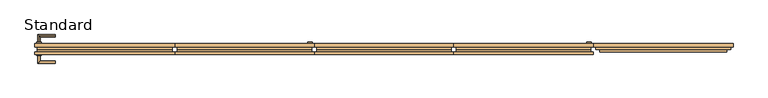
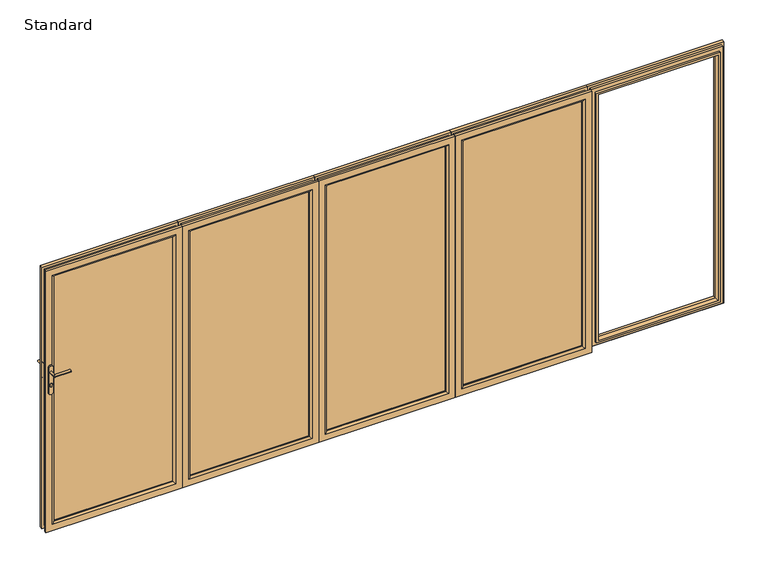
"""IFC4 building model written with IfcOpenShell, lengths in millimetres: door geometry, SMARTS_Visofold1000 : Standard."""

from ifc_helpers import new_model, si_unit, point, frame, frame_2d, origin, place, context, project, spatial, polyline, circle_curve, ellipse_curve, trimmed, segment, composite_curve, outline, extrude, faceted_brep, source, transform, mapped, element, save
from ifc_brep_helpers import plane_surface, cylinder_surface, advanced_brep


def standard_33c56ea0(model_context):
    return source(origin(), model_context, "Body", "SolidModel", [
        advanced_brep(
        [(-1943.3333333, 75.0, 1232.5996413), (-1943.3333333, 75.0, 1215.5996413), (-1943.3333333, 130.0, 1215.5996413), (-1943.3333333, 130.0, 1232.5996413), (-1828.3333333, 130.0, 1232.5996413), (-1828.3333333, 130.0, 1215.5996413)],
        [
            (0, 1, circle_curve(frame((-1943.3333333, 75.0, 1224.0996413), z_axis=(0.0, -1.0, 0.0), x_axis=(0.0, 0.0, -1.0)), 8.5)),
            (1, 0, circle_curve(frame((-1943.3333333, 75.0, 1224.0996413), z_axis=(0.0, -1.0, 0.0), x_axis=(0.0, 0.0, -1.0)), 8.5)),
            (1, 2),
            (2, 3, ellipse_curve(frame((-1943.3333333, 130.0, 1224.0996413), z_axis=(-0.7071067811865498, -0.7071067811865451, 0.0), x_axis=(0.707106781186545, -0.70710678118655, 0.0)), 12.0208153, 8.5)),
            (3, 0),
            (3, 2, ellipse_curve(frame((-1943.3333333, 130.0, 1224.0996413), z_axis=(-0.7071067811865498, -0.7071067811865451, 0.0), x_axis=(0.707106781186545, -0.70710678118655, 0.0)), 12.0208153, 8.5)),
            (4, 5, circle_curve(frame((-1828.3333333, 130.0, 1224.0996413), z_axis=(1.0, 0.0, 0.0), x_axis=(0.0, 0.0, -1.0)), 8.5)),
            (5, 4, circle_curve(frame((-1828.3333333, 130.0, 1224.0996413), z_axis=(1.0, 0.0, 0.0), x_axis=(0.0, 0.0, -1.0)), 8.5)),
            (2, 5),
            (4, 3),
        ],
        [
            plane_surface(frame((-1943.3333333, 75.0, 1224.0996413), z_axis=(0.0, -1.0, 0.0), x_axis=(0.0, 0.0, -1.0))),
            cylinder_surface(frame((-1943.3333333, 75.0, 1224.0996413), z_axis=(0.0, -1.0, 0.0), x_axis=(0.0, 0.0, -1.0)), 8.5),
            plane_surface(frame((-1828.3333333, 130.0, 1224.0996413), z_axis=(1.0, 0.0, 0.0), x_axis=(0.0, 0.0, -1.0))),
            cylinder_surface(frame((-1943.3333333, 130.0, 1224.0996413), z_axis=(-1.0, 0.0, 0.0), x_axis=(0.0, 0.0, -1.0)), 8.5),
        ],
        [
            (0, [[1, 2]]),
            (1, [[-2, 3, 4, 5]]),
            (1, [[-1, -5, 6, -3]]),
            (2, [[7, 8]]),
            (3, [[-4, 9, -7, 10]]),
            (3, [[-6, -10, -8, -9]]),
        ],
    ),
        extrude(outline(composite_curve([segment(trimmed(circle_curve(frame_2d((1258.0996413, -1943.3333333)), 16.0), [point((1258.0996413, -1927.3333333))], [point((1258.0996413, -1959.3333333))], False, "CARTESIAN"), True, "CONTINUOUS"), segment(polyline([(1258.0996413, -1959.3333333), (1070.0996413, -1959.3333333)]), True, "CONTINUOUS"), segment(trimmed(circle_curve(frame_2d((1070.0996413, -1943.3333333)), 16.0), [point((1070.0996413, -1959.3333333))], [point((1070.0996413, -1927.3333333))], False, "CARTESIAN"), True, "CONTINUOUS"), segment(polyline([(1070.0996413, -1927.3333333), (1258.0996413, -1927.3333333)]), True, "CONTINUOUS")], self_intersect=False)), frame((0.0, 75.0, 0.0), z_axis=(0.0, 1.0, 0.0), x_axis=(0.0, 0.0, 1.0)), (0.0, 0.0, 1.0), 10.0),
        advanced_brep(
        [(-1934.8333333, 0.0, 1224.0996413), (-1951.8333333, 0.0, 1224.0996413), (-1934.8333333, -46.5, 1224.0996413), (-1951.8333333, -63.5, 1224.0996413), (-1828.3333333, -46.5, 1224.0996413), (-1828.3333333, -63.5, 1224.0996413)],
        [
            (0, 1, circle_curve(frame((-1943.3333333, 0.0, 1224.0996413), z_axis=(0.0, 1.0, 0.0), x_axis=(-1.0, 0.0, 0.0)), 8.5)),
            (1, 0, circle_curve(frame((-1943.3333333, 0.0, 1224.0996413), z_axis=(0.0, 1.0, 0.0), x_axis=(-1.0, 0.0, 0.0)), 8.5)),
            (0, 2),
            (2, 3, ellipse_curve(frame((-1943.3333333, -55.0, 1224.0996413), z_axis=(-0.7071067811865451, 0.7071067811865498, 0.0), x_axis=(0.7071067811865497, 0.7071067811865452, 0.0)), 12.0208153, 8.5)),
            (3, 1),
            (3, 2, ellipse_curve(frame((-1943.3333333, -55.0, 1224.0996413), z_axis=(-0.7071067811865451, 0.7071067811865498, 0.0), x_axis=(0.7071067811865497, 0.7071067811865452, 0.0)), 12.0208153, 8.5)),
            (4, 5, circle_curve(frame((-1828.3333333, -55.0, 1224.0996413), z_axis=(1.0, 0.0, 0.0), x_axis=(0.0, -1.0, 0.0)), 8.5)),
            (5, 4, circle_curve(frame((-1828.3333333, -55.0, 1224.0996413), z_axis=(1.0, 0.0, 0.0), x_axis=(0.0, -1.0, 0.0)), 8.5)),
            (2, 4),
            (5, 3),
        ],
        [
            plane_surface(frame((-1943.3333333, 0.0, 1224.0996413), z_axis=(0.0, 1.0, 0.0), x_axis=(0.0, 0.0, -1.0))),
            cylinder_surface(frame((-1943.3333333, 0.0, 1224.0996413), z_axis=(0.0, 1.0, 0.0), x_axis=(-1.0, 0.0, 0.0)), 8.5),
            plane_surface(frame((-1828.3333333, -55.0, 1224.0996413), z_axis=(1.0, 0.0, 0.0), x_axis=(0.0, 0.0, -1.0))),
            cylinder_surface(frame((-1943.3333333, -55.0, 1224.0996413), z_axis=(-1.0, 0.0, 0.0), x_axis=(0.0, -1.0, 0.0)), 8.5),
        ],
        [
            (0, [[1, 2]]),
            (1, [[-1, 3, 4, 5]]),
            (1, [[-2, -5, 6, -3]]),
            (2, [[7, 8]]),
            (3, [[-4, 9, -8, 10]]),
            (3, [[-6, -10, -7, -9]]),
        ],
    ),
        extrude(outline(composite_curve([segment(trimmed(circle_curve(frame_2d((1258.0996413, -1943.3333333)), 16.0), [point((1258.0996413, -1927.3333333))], [point((1258.0996413, -1959.3333333))], False, "CARTESIAN"), True, "CONTINUOUS"), segment(polyline([(1258.0996413, -1959.3333333), (1070.0996413, -1959.3333333)]), True, "CONTINUOUS"), segment(trimmed(circle_curve(frame_2d((1070.0996413, -1943.3333333)), 16.0), [point((1070.0996413, -1959.3333333))], [point((1070.0996413, -1927.3333333))], False, "CARTESIAN"), True, "CONTINUOUS"), segment(polyline([(1070.0996413, -1927.3333333), (1258.0996413, -1927.3333333)]), True, "CONTINUOUS")], self_intersect=False)), frame((0.0, -10.0, 0.0), z_axis=(0.0, 1.0, 0.0), x_axis=(0.0, 0.0, 1.0)), (0.0, 0.0, 1.0), 10.0),
        extrude(outline(composite_curve([segment(trimmed(circle_curve(frame_2d((1132.0996413, -1943.2761428)), 8.5), [point((1125.1769586, -1938.3439563))], [point((1125.27562, -1948.3439563))], False, "CARTESIAN"), True, "CONTINUOUS"), segment(polyline([(1125.27562, -1948.3439563), (1117.5996413, -1948.3439563)]), True, "CONTINUOUS"), segment(trimmed(circle_curve(frame_2d((1117.5996413, -1943.3439563)), 5.0), [point((1117.5996413, -1948.3439563))], [point((1117.5996413, -1938.3439563))], False, "CARTESIAN"), True, "CONTINUOUS"), segment(polyline([(1117.5996413, -1938.3439563), (1125.1769586, -1938.3439563)]), True, "CONTINUOUS")], self_intersect=False)), frame((0.0, 85.0, 0.0), z_axis=(0.0, 1.0, 0.0), x_axis=(0.0, 0.0, 1.0)), (0.0, 0.0, 1.0), 2.0),
        extrude(outline(composite_curve([segment(trimmed(circle_curve(frame_2d((1132.0996413, -1943.2761428)), 8.5), [point((1125.1769586, -1938.3439563))], [point((1125.27562, -1948.3439563))], False, "CARTESIAN"), True, "CONTINUOUS"), segment(polyline([(1125.27562, -1948.3439563), (1117.5996413, -1948.3439563)]), True, "CONTINUOUS"), segment(trimmed(circle_curve(frame_2d((1117.5996413, -1943.3439563)), 5.0), [point((1117.5996413, -1948.3439563))], [point((1117.5996413, -1938.3439563))], False, "CARTESIAN"), True, "CONTINUOUS"), segment(polyline([(1117.5996413, -1938.3439563), (1125.1769586, -1938.3439563)]), True, "CONTINUOUS")], self_intersect=False)), frame((0.0, -12.0, 0.0), z_axis=(0.0, 1.0, 0.0), x_axis=(0.0, 0.0, 1.0)), (0.0, 0.0, 1.0), 2.0),
        extrude(outline(polyline([(45.0, -1928.3333333), (45.0, -1031.6666667), (1955.0, -1031.6666667), (1955.0, -1928.3333333), (45.0, -1928.3333333)]), holes=[polyline([(1939.5, -1912.8333333), (1939.5, -1047.1666667), (60.5, -1047.1666667), (60.5, -1912.8333333), (1939.5, -1912.8333333)])]), frame((0.0, 17.4, 0.0), z_axis=(0.0, 1.0, 0.0), x_axis=(0.0, 0.0, 1.0)), (0.0, 0.0, 1.0), 35.0),
        faceted_brep([(-1973.3333333, 74.4, 0.0), (-1973.3333333, 52.4, 0.0), (-1973.3333333, 52.4, 2000.0), (-1973.3333333, 74.4, 2000.0), (-1912.8333333, 52.4, 60.5), (-1912.8333333, 74.4, 60.5), (-1912.8333333, 74.4, 1939.5), (-1912.8333333, 52.4, 1939.5), (-986.6666667, 52.4, 2000.0), (-986.6666667, 74.4, 2000.0), (-1047.1666667, 74.4, 1939.5), (-1047.1666667, 52.4, 1939.5), (-986.6666667, 52.4, 0.0), (-986.6666667, 74.4, 0.0), (-1047.1666667, 74.4, 60.5), (-1047.1666667, 52.4, 60.5), (-1955.4641853, 34.8, 17.8691481), (-1004.5358147, 34.8, 17.8691481), (-1004.5358147, 34.8, 1982.1308519), (-1955.4641853, 34.8, 1982.1308519), (-1928.3333333, 34.8, 1955.0), (-1031.6666667, 34.8, 1955.0), (-1031.6666667, 34.8, 45.0), (-1928.3333333, 34.8, 45.0), (-1955.4641853, 52.4, 17.8691481), (-1955.4641853, 52.4, 1982.1308519), (-1928.3333333, 52.4, 45.0), (-1928.3333333, 52.4, 1955.0), (-1004.5358147, 52.4, 1982.1308519), (-1031.6666667, 52.4, 1955.0), (-1004.5358147, 52.4, 17.8691481), (-1031.6666667, 52.4, 45.0)], [[[0, 1, 2, 3]], [[4, 5, 6, 7]], [[3, 2, 8, 9]], [[7, 6, 10, 11]], [[9, 8, 12, 13]], [[11, 10, 14, 15]], [[13, 12, 1, 0]], [[3, 9, 13, 0], [5, 14, 10, 6]], [[15, 14, 5, 4]], [[16, 17, 18, 19], [20, 21, 22, 23]], [[24, 16, 19, 25]], [[23, 26, 27, 20]], [[25, 19, 18, 28]], [[20, 27, 29, 21]], [[28, 18, 17, 30]], [[21, 29, 31, 22]], [[30, 17, 16, 24]], [[1, 12, 8, 2], [25, 28, 30, 24]], [[26, 31, 29, 27], [7, 11, 15, 4]], [[22, 31, 26, 23]]]),
        advanced_brep(
        [(-1912.8333333, 13.3, 60.5), (-1912.8333333, 17.4, 60.5), (-1912.8333333, 17.4, 1939.5), (-1912.8333333, 13.3, 1939.5), (-1973.3333333, 17.4, 0.0), (-1973.3333333, 0.0, 0.0), (-1973.3333333, 0.0, 2000.0), (-1973.3333333, 17.4, 2000.0), (-1047.1666667, 17.4, 1939.5), (-1047.1666667, 13.3, 1939.5), (-986.6666667, 0.0, 2000.0), (-986.6666667, 17.4, 2000.0), (-1047.1666667, 17.4, 60.5), (-1047.1666667, 13.3, 60.5), (-986.6666667, 0.0, 0.0), (-986.6666667, 17.4, 0.0), (-1926.1333333, 0.0, 1952.8), (-1033.8666667, 0.0, 1952.8), (-1033.8666667, 0.0, 47.2), (-1926.1333333, 0.0, 47.2), (-1955.4641853, 34.8, 17.8691481), (-1955.4641853, 17.4, 17.8691481), (-1955.4641853, 17.4, 1982.1308519), (-1955.4641853, 34.8, 1982.1308519), (-1004.5358147, 17.4, 1982.1308519), (-1004.5358147, 34.8, 1982.1308519), (-1004.5358147, 17.4, 17.8691481), (-1004.5358147, 34.8, 17.8691481), (-1928.3333333, 17.4, 45.0), (-1928.3333333, 34.8, 45.0), (-1928.3333333, 34.8, 1955.0), (-1928.3333333, 17.4, 1955.0), (-1031.6666667, 34.8, 1955.0), (-1031.6666667, 17.4, 1955.0), (-1031.6666667, 34.8, 45.0), (-1031.6666667, 17.4, 45.0)],
        [
            (0, 1),
            (1, 2),
            (2, 3),
            (3, 0),
            (4, 5),
            (5, 6),
            (6, 7),
            (7, 4),
            (2, 8),
            (8, 9),
            (9, 3),
            (6, 10),
            (10, 11),
            (11, 7),
            (8, 12),
            (12, 13),
            (13, 9),
            (10, 14),
            (14, 15),
            (15, 11),
            (12, 1),
            (0, 13),
            (5, 14),
            (16, 17),
            (17, 18),
            (18, 19),
            (19, 16),
            (4, 15),
            (19, 0, ellipse_curve(frame((-1926.1333333, 13.3, 47.2), z_axis=(-0.70710678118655, 0.0, 0.707106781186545), x_axis=(-0.707106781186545, 0.0, -0.7071067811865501)), 18.8090404, 13.3)),
            (3, 16, ellipse_curve(frame((-1926.1333333, 13.3, 1952.8), z_axis=(-0.7071067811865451, 0.0, -0.7071067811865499), x_axis=(0.70710678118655, 0.0, -0.7071067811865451)), 18.8090404, 13.3)),
            (9, 17, ellipse_curve(frame((-1033.8666667, 13.3, 1952.8), z_axis=(-0.70710678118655, 0.0, 0.707106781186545), x_axis=(-0.707106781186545, 0.0, -0.7071067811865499)), 18.8090404, 13.3)),
            (13, 18, ellipse_curve(frame((-1033.8666667, 13.3, 47.2), z_axis=(0.7071067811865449, 0.0, 0.70710678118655), x_axis=(-0.7071067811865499, 0.0, 0.707106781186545)), 18.8090404, 13.3)),
            (20, 21),
            (21, 22),
            (22, 23),
            (23, 20),
            (22, 24),
            (24, 25),
            (25, 23),
            (24, 26),
            (26, 27),
            (27, 25),
            (21, 26),
            (20, 27),
            (28, 29),
            (29, 30),
            (30, 31),
            (31, 28),
            (30, 32),
            (32, 33),
            (33, 31),
            (32, 34),
            (34, 35),
            (35, 33),
            (34, 29),
            (28, 35),
        ],
        [
            plane_surface(frame((-1912.8333333, 17.4, 60.5), z_axis=(1.0, 0.0, 0.0), x_axis=(0.0, 0.0, 1.0))),
            plane_surface(frame((-1973.3333333, 0.0, 0.0), z_axis=(-1.0, 0.0, 0.0), x_axis=(0.0, 0.0, 1.0))),
            plane_surface(frame((-1912.8333333, 17.4, 1939.5), z_axis=(0.0, 0.0, -1.0), x_axis=(1.0, 0.0, 0.0))),
            plane_surface(frame((-1973.3333333, 0.0, 2000.0), z_axis=(0.0, 0.0, 1.0), x_axis=(1.0, 0.0, 0.0))),
            plane_surface(frame((-1047.1666667, 17.4, 1939.5), z_axis=(-1.0, 0.0, 0.0), x_axis=(0.0, 0.0, -1.0))),
            plane_surface(frame((-986.6666667, 0.0, 2000.0), z_axis=(1.0, 0.0, 0.0), x_axis=(0.0, 0.0, -1.0))),
            plane_surface(frame((-1047.1666667, 17.4, 60.5), z_axis=(0.0, 0.0, 1.0), x_axis=(-1.0, 0.0, 0.0))),
            plane_surface(frame((-1033.8666667, 0.0, 47.2), z_axis=(0.0, -1.0, 0.0), x_axis=(-1.0, 0.0, 0.0))),
            plane_surface(frame((-986.6666667, 0.0, 0.0), z_axis=(0.0, 0.0, -1.0), x_axis=(-1.0, 0.0, 0.0))),
            cylinder_surface(frame((-1926.1333333, 13.3, 0.0), z_axis=(0.0, 0.0, -1.0), x_axis=(0.0, 1.0, 0.0)), 13.3),
            cylinder_surface(frame((-1973.3333333, 13.3, 1952.8), z_axis=(-1.0, 0.0, 0.0), x_axis=(0.0, 1.0, 0.0)), 13.3),
            cylinder_surface(frame((-1033.8666667, 13.3, 2000.0), z_axis=(0.0, 0.0, 1.0), x_axis=(0.0, 1.0, 0.0)), 13.3),
            cylinder_surface(frame((-986.6666667, 13.3, 47.2), z_axis=(1.0, 0.0, 0.0), x_axis=(0.0, 1.0, 0.0)), 13.3),
            plane_surface(frame((-1955.4641853, 17.4, 17.8691481), z_axis=(-1.0, 0.0, 0.0), x_axis=(0.0, 0.0, 1.0))),
            plane_surface(frame((-1955.4641853, 17.4, 1982.1308519), z_axis=(0.0, 0.0, 1.0), x_axis=(1.0, 0.0, 0.0))),
            plane_surface(frame((-1004.5358147, 17.4, 1982.1308519), z_axis=(1.0, 0.0, 0.0), x_axis=(0.0, 0.0, -1.0))),
            plane_surface(frame((-986.6666667, 17.4, 0.0), z_axis=(0.0, 1.0, 0.0), x_axis=(-1.0, 0.0, 0.0))),
            plane_surface(frame((-1004.5358147, 17.4, 17.8691481), z_axis=(0.0, 0.0, -1.0), x_axis=(-1.0, 0.0, 0.0))),
            plane_surface(frame((-1928.3333333, 34.8, 45.0), z_axis=(1.0, 0.0, 0.0), x_axis=(0.0, 0.0, 1.0))),
            plane_surface(frame((-1928.3333333, 34.8, 1955.0), z_axis=(0.0, 0.0, -1.0), x_axis=(1.0, 0.0, 0.0))),
            plane_surface(frame((-1031.6666667, 34.8, 1955.0), z_axis=(-1.0, 0.0, 0.0), x_axis=(0.0, 0.0, -1.0))),
            plane_surface(frame((-1031.6666667, 34.8, 45.0), z_axis=(0.0, 0.0, 1.0), x_axis=(-1.0, 0.0, 0.0))),
            plane_surface(frame((-1031.6666667, 17.4, 45.0), z_axis=(0.0, 1.0, 0.0), x_axis=(-1.0, 0.0, 0.0))),
            plane_surface(frame((-1004.5358147, 34.8, 17.8691481), z_axis=(0.0, 1.0, 0.0), x_axis=(-1.0, 0.0, 0.0))),
        ],
        [
            (0, [[1, 2, 3, 4]]),
            (1, [[5, 6, 7, 8]]),
            (2, [[-3, 9, 10, 11]]),
            (3, [[-7, 12, 13, 14]]),
            (4, [[-10, 15, 16, 17]]),
            (5, [[-13, 18, 19, 20]]),
            (6, [[-16, 21, -1, 22]]),
            (7, [[23, -18, -12, -6], [24, 25, 26, 27]]),
            (8, [[-19, -23, -5, 28]]),
            (9, [[29, -4, 30, -27]]),
            (10, [[-30, -11, 31, -24]]),
            (11, [[-31, -17, 32, -25]]),
            (12, [[-32, -22, -29, -26]]),
            (13, [[33, 34, 35, 36]]),
            (14, [[-35, 37, 38, 39]]),
            (15, [[-38, 40, 41, 42]]),
            (16, [[-14, -20, -28, -8], [43, -40, -37, -34]]),
            (17, [[-41, -43, -33, 44]]),
            (18, [[45, 46, 47, 48]]),
            (19, [[-47, 49, 50, 51]]),
            (20, [[-50, 52, 53, 54]]),
            (21, [[-53, 55, -45, 56]]),
            (22, [[-51, -54, -56, -48], [-21, -15, -9, -2]]),
            (23, [[-39, -42, -44, -36], [-55, -52, -49, -46]]),
        ],
    ),
        extrude(outline(polyline([(-1912.8333333, 50.1484783), (-1047.1666667, 50.1484783), (-1047.1666667, 21.4), (-1912.8333333, 21.4), (-1912.8333333, 50.1484783)])), frame((0.0, 0.0, 60.5), z_axis=(0.0, 0.0, 1.0), x_axis=(1.0, 0.0, 0.0)), (0.0, 0.0, 1.0), 1879.0),
        extrude(outline(composite_curve([segment(polyline([(1228.0996413, -46.0), (1040.0996413, -46.0)]), True, "CONTINUOUS"), segment(trimmed(circle_curve(frame_2d((1040.0996413, -30.0)), 16.0), [point((1040.0996413, -46.0))], [point((1040.0996413, -14.0))], False, "CARTESIAN"), True, "CONTINUOUS"), segment(polyline([(1040.0996413, -14.0), (1228.0996413, -14.0)]), True, "CONTINUOUS"), segment(trimmed(circle_curve(frame_2d((1228.0996413, -30.0)), 16.0), [point((1228.0996413, -14.0))], [point((1228.0996413, -46.0))], False, "CARTESIAN"), True, "CONTINUOUS")], self_intersect=False)), frame((0.0, 75.0, 0.0), z_axis=(0.0, 1.0, 0.0), x_axis=(0.0, 0.0, 1.0)), (0.0, 0.0, 1.0), 10.0),
        extrude(outline(polyline([(45.0, -45.0), (1955.0, -45.0), (1955.0, -941.6666667), (45.0, -941.6666667), (45.0, -45.0)]), holes=[polyline([(1939.5, -60.5), (60.5, -60.5), (60.5, -926.1666667), (1939.5, -926.1666667), (1939.5, -60.5)])]), frame((0.0, 17.4, 0.0), z_axis=(0.0, 1.0, 0.0), x_axis=(0.0, 0.0, 1.0)), (0.0, 0.0, 1.0), 35.0),
        faceted_brep([(0.0, 74.4, 0.0), (0.0, 74.4, 2000.0), (0.0, 52.4, 2000.0), (0.0, 52.4, 0.0), (-60.5, 52.4, 60.5), (-60.5, 52.4, 1939.5), (-60.5, 74.4, 1939.5), (-60.5, 74.4, 60.5), (-986.6666667, 74.4, 2000.0), (-986.6666667, 52.4, 2000.0), (-926.1666667, 52.4, 1939.5), (-926.1666667, 74.4, 1939.5), (-986.6666667, 74.4, 0.0), (-986.6666667, 52.4, 0.0), (-926.1666667, 52.4, 60.5), (-926.1666667, 74.4, 60.5), (-17.8691481, 34.8, 17.8691481), (-17.8691481, 34.8, 1982.1308519), (-968.7975186, 34.8, 1982.1308519), (-968.7975186, 34.8, 17.8691481), (-45.0, 34.8, 1955.0), (-45.0, 34.8, 45.0), (-941.6666667, 34.8, 45.0), (-941.6666667, 34.8, 1955.0), (-17.8691481, 52.4, 17.8691481), (-17.8691481, 52.4, 1982.1308519), (-45.0, 52.4, 1955.0), (-45.0, 52.4, 45.0), (-968.7975186, 52.4, 1982.1308519), (-941.6666667, 52.4, 1955.0), (-968.7975186, 52.4, 17.8691481), (-941.6666667, 52.4, 45.0)], [[[0, 1, 2, 3]], [[4, 5, 6, 7]], [[1, 8, 9, 2]], [[5, 10, 11, 6]], [[8, 12, 13, 9]], [[10, 14, 15, 11]], [[12, 0, 3, 13]], [[1, 0, 12, 8], [7, 6, 11, 15]], [[14, 4, 7, 15]], [[16, 17, 18, 19], [20, 21, 22, 23]], [[24, 25, 17, 16]], [[21, 20, 26, 27]], [[25, 28, 18, 17]], [[20, 23, 29, 26]], [[28, 30, 19, 18]], [[23, 22, 31, 29]], [[30, 24, 16, 19]], [[3, 2, 9, 13], [25, 24, 30, 28]], [[27, 26, 29, 31], [5, 4, 14, 10]], [[22, 21, 27, 31]]]),
        advanced_brep(
        [(-60.5, 13.3, 60.5), (-60.5, 13.3, 1939.5), (-60.5, 17.4, 1939.5), (-60.5, 17.4, 60.5), (0.0, 17.4, 0.0), (0.0, 17.4, 2000.0), (0.0, 0.0, 2000.0), (0.0, 0.0, 0.0), (-926.1666667, 13.3, 1939.5), (-926.1666667, 17.4, 1939.5), (-986.6666667, 17.4, 2000.0), (-986.6666667, 0.0, 2000.0), (-926.1666667, 13.3, 60.5), (-926.1666667, 17.4, 60.5), (-986.6666667, 17.4, 0.0), (-986.6666667, 0.0, 0.0), (-47.2, 0.0, 1952.8), (-47.2, 0.0, 47.2), (-939.4666667, 0.0, 47.2), (-939.4666667, 0.0, 1952.8), (-17.8691481, 34.8, 17.8691481), (-17.8691481, 34.8, 1982.1308519), (-17.8691481, 17.4, 1982.1308519), (-17.8691481, 17.4, 17.8691481), (-968.7975186, 34.8, 1982.1308519), (-968.7975186, 17.4, 1982.1308519), (-968.7975186, 34.8, 17.8691481), (-968.7975186, 17.4, 17.8691481), (-45.0, 17.4, 45.0), (-45.0, 17.4, 1955.0), (-45.0, 34.8, 1955.0), (-45.0, 34.8, 45.0), (-941.6666667, 17.4, 1955.0), (-941.6666667, 34.8, 1955.0), (-941.6666667, 17.4, 45.0), (-941.6666667, 34.8, 45.0)],
        [
            (0, 1),
            (1, 2),
            (2, 3),
            (3, 0),
            (4, 5),
            (5, 6),
            (6, 7),
            (7, 4),
            (1, 8),
            (8, 9),
            (9, 2),
            (5, 10),
            (10, 11),
            (11, 6),
            (8, 12),
            (12, 13),
            (13, 9),
            (10, 14),
            (14, 15),
            (15, 11),
            (12, 0),
            (3, 13),
            (15, 7),
            (16, 17),
            (17, 18),
            (18, 19),
            (19, 16),
            (14, 4),
            (16, 1, ellipse_curve(frame((-47.2, 13.3, 1952.8), z_axis=(0.7071067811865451, 0.0, -0.7071067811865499), x_axis=(-0.70710678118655, 0.0, -0.7071067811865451)), 18.8090404, 13.3)),
            (0, 17, ellipse_curve(frame((-47.2, 13.3, 47.2), z_axis=(0.70710678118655, 0.0, 0.707106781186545), x_axis=(0.707106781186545, 0.0, -0.7071067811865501)), 18.8090404, 13.3)),
            (19, 8, ellipse_curve(frame((-939.4666667, 13.3, 1952.8), z_axis=(0.70710678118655, 0.0, 0.707106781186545), x_axis=(0.707106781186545, 0.0, -0.7071067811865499)), 18.8090404, 13.3)),
            (18, 12, ellipse_curve(frame((-939.4666667, 13.3, 47.2), z_axis=(-0.7071067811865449, 0.0, 0.70710678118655), x_axis=(0.7071067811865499, 0.0, 0.707106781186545)), 18.8090404, 13.3)),
            (20, 21),
            (21, 22),
            (22, 23),
            (23, 20),
            (21, 24),
            (24, 25),
            (25, 22),
            (24, 26),
            (26, 27),
            (27, 25),
            (27, 23),
            (26, 20),
            (28, 29),
            (29, 30),
            (30, 31),
            (31, 28),
            (29, 32),
            (32, 33),
            (33, 30),
            (32, 34),
            (34, 35),
            (35, 33),
            (34, 28),
            (31, 35),
        ],
        [
            plane_surface(frame((-60.5, 17.4, 60.5), z_axis=(-1.0, 0.0, 0.0), x_axis=(0.0, 0.0, 1.0))),
            plane_surface(frame((0.0, 0.0, 0.0), z_axis=(1.0, 0.0, 0.0), x_axis=(0.0, 0.0, 1.0))),
            plane_surface(frame((-60.5, 17.4, 1939.5), z_axis=(0.0, 0.0, -1.0), x_axis=(-1.0, 0.0, 0.0))),
            plane_surface(frame((0.0, 0.0, 2000.0), z_axis=(0.0, 0.0, 1.0), x_axis=(-1.0, 0.0, 0.0))),
            plane_surface(frame((-926.1666667, 17.4, 1939.5), z_axis=(1.0, 0.0, 0.0), x_axis=(0.0, 0.0, -1.0))),
            plane_surface(frame((-986.6666667, 0.0, 2000.0), z_axis=(-1.0, 0.0, 0.0), x_axis=(0.0, 0.0, -1.0))),
            plane_surface(frame((-926.1666667, 17.4, 60.5), z_axis=(0.0, 0.0, 1.0), x_axis=(1.0, 0.0, 0.0))),
            plane_surface(frame((-939.4666667, 0.0, 47.2), z_axis=(0.0, -1.0, 0.0), x_axis=(1.0, 0.0, 0.0))),
            plane_surface(frame((-986.6666667, 0.0, 0.0), z_axis=(0.0, 0.0, -1.0), x_axis=(1.0, 0.0, 0.0))),
            cylinder_surface(frame((-47.2, 13.3, 0.0), z_axis=(0.0, 0.0, -1.0), x_axis=(0.0, 1.0, 0.0)), 13.3),
            cylinder_surface(frame((0.0, 13.3, 1952.8), z_axis=(1.0, 0.0, 0.0), x_axis=(0.0, 1.0, 0.0)), 13.3),
            cylinder_surface(frame((-939.4666667, 13.3, 2000.0), z_axis=(0.0, 0.0, 1.0), x_axis=(0.0, 1.0, 0.0)), 13.3),
            cylinder_surface(frame((-986.6666667, 13.3, 47.2), z_axis=(-1.0, 0.0, 0.0), x_axis=(0.0, 1.0, 0.0)), 13.3),
            plane_surface(frame((-17.8691481, 17.4, 17.8691481), z_axis=(1.0, 0.0, 0.0), x_axis=(0.0, 0.0, 1.0))),
            plane_surface(frame((-17.8691481, 17.4, 1982.1308519), z_axis=(0.0, 0.0, 1.0), x_axis=(-1.0, 0.0, 0.0))),
            plane_surface(frame((-968.7975186, 17.4, 1982.1308519), z_axis=(-1.0, 0.0, 0.0), x_axis=(0.0, 0.0, -1.0))),
            plane_surface(frame((-986.6666667, 17.4, 0.0), z_axis=(0.0, 1.0, 0.0), x_axis=(1.0, 0.0, 0.0))),
            plane_surface(frame((-968.7975186, 17.4, 17.8691481), z_axis=(0.0, 0.0, -1.0), x_axis=(1.0, 0.0, 0.0))),
            plane_surface(frame((-45.0, 34.8, 45.0), z_axis=(-1.0, 0.0, 0.0), x_axis=(0.0, 0.0, 1.0))),
            plane_surface(frame((-45.0, 34.8, 1955.0), z_axis=(0.0, 0.0, -1.0), x_axis=(-1.0, 0.0, 0.0))),
            plane_surface(frame((-941.6666667, 34.8, 1955.0), z_axis=(1.0, 0.0, 0.0), x_axis=(0.0, 0.0, -1.0))),
            plane_surface(frame((-941.6666667, 34.8, 45.0), z_axis=(0.0, 0.0, 1.0), x_axis=(1.0, 0.0, 0.0))),
            plane_surface(frame((-941.6666667, 17.4, 45.0), z_axis=(0.0, 1.0, 0.0), x_axis=(1.0, 0.0, 0.0))),
            plane_surface(frame((-968.7975186, 34.8, 17.8691481), z_axis=(0.0, 1.0, 0.0), x_axis=(1.0, 0.0, 0.0))),
        ],
        [
            (0, [[1, 2, 3, 4]]),
            (1, [[5, 6, 7, 8]]),
            (2, [[9, 10, 11, -2]]),
            (3, [[12, 13, 14, -6]]),
            (4, [[15, 16, 17, -10]]),
            (5, [[18, 19, 20, -13]]),
            (6, [[21, -4, 22, -16]]),
            (7, [[-7, -14, -20, 23], [24, 25, 26, 27]]),
            (8, [[28, -8, -23, -19]]),
            (9, [[-24, 29, -1, 30]]),
            (10, [[-27, 31, -9, -29]]),
            (11, [[-26, 32, -15, -31]]),
            (12, [[-25, -30, -21, -32]]),
            (13, [[33, 34, 35, 36]]),
            (14, [[37, 38, 39, -34]]),
            (15, [[40, 41, 42, -38]]),
            (16, [[-5, -28, -18, -12], [-35, -39, -42, 43]]),
            (17, [[44, -36, -43, -41]]),
            (18, [[45, 46, 47, 48]]),
            (19, [[49, 50, 51, -46]]),
            (20, [[52, 53, 54, -50]]),
            (21, [[55, -48, 56, -53]]),
            (22, [[-45, -55, -52, -49], [-3, -11, -17, -22]]),
            (23, [[-33, -44, -40, -37], [-47, -51, -54, -56]]),
        ],
    ),
        extrude(outline(polyline([(-60.5, 50.1484783), (-60.5, 21.4), (-926.1666667, 21.4), (-926.1666667, 50.1484783), (-60.5, 50.1484783)])), frame((0.0, 0.0, 60.5), z_axis=(0.0, 0.0, 1.0), x_axis=(1.0, 0.0, 0.0)), (0.0, 0.0, 1.0), 1879.0),
        extrude(outline(composite_curve([segment(polyline([(1228.0996413, 1927.3333333), (1040.0996413, 1927.3333333)]), True, "CONTINUOUS"), segment(trimmed(circle_curve(frame_2d((1040.0996413, 1943.3333333)), 16.0), [point((1040.0996413, 1927.3333333))], [point((1040.0996413, 1959.3333333))], False, "CARTESIAN"), True, "CONTINUOUS"), segment(polyline([(1040.0996413, 1959.3333333), (1228.0996413, 1959.3333333)]), True, "CONTINUOUS"), segment(trimmed(circle_curve(frame_2d((1228.0996413, 1943.3333333)), 16.0), [point((1228.0996413, 1959.3333333))], [point((1228.0996413, 1927.3333333))], False, "CARTESIAN"), True, "CONTINUOUS")], self_intersect=False)), frame((0.0, 75.0, 0.0), z_axis=(0.0, 1.0, 0.0), x_axis=(0.0, 0.0, 1.0)), (0.0, 0.0, 1.0), 10.0),
        extrude(outline(polyline([(45.0, 1928.3333333), (1955.0, 1928.3333333), (1955.0, 1031.6666667), (45.0, 1031.6666667), (45.0, 1928.3333333)]), holes=[polyline([(1939.5, 1912.8333333), (60.5, 1912.8333333), (60.5, 1047.1666667), (1939.5, 1047.1666667), (1939.5, 1912.8333333)])]), frame((0.0, 17.4, 0.0), z_axis=(0.0, 1.0, 0.0), x_axis=(0.0, 0.0, 1.0)), (0.0, 0.0, 1.0), 35.0),
        faceted_brep([(1973.3333333, 74.4, 0.0), (1973.3333333, 74.4, 2000.0), (1973.3333333, 52.4, 2000.0), (1973.3333333, 52.4, 0.0), (1912.8333333, 52.4, 60.5), (1912.8333333, 52.4, 1939.5), (1912.8333333, 74.4, 1939.5), (1912.8333333, 74.4, 60.5), (986.6666667, 74.4, 2000.0), (986.6666667, 52.4, 2000.0), (1047.1666667, 52.4, 1939.5), (1047.1666667, 74.4, 1939.5), (986.6666667, 74.4, 0.0), (986.6666667, 52.4, 0.0), (1047.1666667, 52.4, 60.5), (1047.1666667, 74.4, 60.5), (1955.4641853, 34.8, 17.8691481), (1955.4641853, 34.8, 1982.1308519), (1004.5358147, 34.8, 1982.1308519), (1004.5358147, 34.8, 17.8691481), (1928.3333333, 34.8, 1955.0), (1928.3333333, 34.8, 45.0), (1031.6666667, 34.8, 45.0), (1031.6666667, 34.8, 1955.0), (1955.4641853, 52.4, 17.8691481), (1955.4641853, 52.4, 1982.1308519), (1928.3333333, 52.4, 1955.0), (1928.3333333, 52.4, 45.0), (1004.5358147, 52.4, 1982.1308519), (1031.6666667, 52.4, 1955.0), (1004.5358147, 52.4, 17.8691481), (1031.6666667, 52.4, 45.0)], [[[0, 1, 2, 3]], [[4, 5, 6, 7]], [[1, 8, 9, 2]], [[5, 10, 11, 6]], [[8, 12, 13, 9]], [[10, 14, 15, 11]], [[12, 0, 3, 13]], [[1, 0, 12, 8], [7, 6, 11, 15]], [[14, 4, 7, 15]], [[16, 17, 18, 19], [20, 21, 22, 23]], [[24, 25, 17, 16]], [[21, 20, 26, 27]], [[25, 28, 18, 17]], [[20, 23, 29, 26]], [[28, 30, 19, 18]], [[23, 22, 31, 29]], [[30, 24, 16, 19]], [[3, 2, 9, 13], [25, 24, 30, 28]], [[27, 26, 29, 31], [5, 4, 14, 10]], [[22, 21, 27, 31]]]),
        advanced_brep(
        [(1912.8333333, 13.3, 60.5), (1912.8333333, 13.3, 1939.5), (1912.8333333, 17.4, 1939.5), (1912.8333333, 17.4, 60.5), (1973.3333333, 17.4, 0.0), (1973.3333333, 17.4, 2000.0), (1973.3333333, 0.0, 2000.0), (1973.3333333, 0.0, 0.0), (1047.1666667, 13.3, 1939.5), (1047.1666667, 17.4, 1939.5), (986.6666667, 17.4, 2000.0), (986.6666667, 0.0, 2000.0), (1047.1666667, 13.3, 60.5), (1047.1666667, 17.4, 60.5), (986.6666667, 17.4, 0.0), (986.6666667, 0.0, 0.0), (1926.1333333, 0.0, 1952.8), (1926.1333333, 0.0, 47.2), (1033.8666667, 0.0, 47.2), (1033.8666667, 0.0, 1952.8), (1955.4641853, 34.8, 17.8691481), (1955.4641853, 34.8, 1982.1308519), (1955.4641853, 17.4, 1982.1308519), (1955.4641853, 17.4, 17.8691481), (1004.5358147, 34.8, 1982.1308519), (1004.5358147, 17.4, 1982.1308519), (1004.5358147, 34.8, 17.8691481), (1004.5358147, 17.4, 17.8691481), (1928.3333333, 17.4, 45.0), (1928.3333333, 17.4, 1955.0), (1928.3333333, 34.8, 1955.0), (1928.3333333, 34.8, 45.0), (1031.6666667, 17.4, 1955.0), (1031.6666667, 34.8, 1955.0), (1031.6666667, 17.4, 45.0), (1031.6666667, 34.8, 45.0)],
        [
            (0, 1),
            (1, 2),
            (2, 3),
            (3, 0),
            (4, 5),
            (5, 6),
            (6, 7),
            (7, 4),
            (1, 8),
            (8, 9),
            (9, 2),
            (5, 10),
            (10, 11),
            (11, 6),
            (8, 12),
            (12, 13),
            (13, 9),
            (10, 14),
            (14, 15),
            (15, 11),
            (12, 0),
            (3, 13),
            (15, 7),
            (16, 17),
            (17, 18),
            (18, 19),
            (19, 16),
            (14, 4),
            (16, 1, ellipse_curve(frame((1926.1333333, 13.3, 1952.8), z_axis=(0.7071067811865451, 0.0, -0.7071067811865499), x_axis=(-0.70710678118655, 0.0, -0.7071067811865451)), 18.8090404, 13.3)),
            (0, 17, ellipse_curve(frame((1926.1333333, 13.3, 47.2), z_axis=(0.70710678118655, 0.0, 0.707106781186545), x_axis=(0.707106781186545, 0.0, -0.7071067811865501)), 18.8090404, 13.3)),
            (19, 8, ellipse_curve(frame((1033.8666667, 13.3, 1952.8), z_axis=(0.70710678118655, 0.0, 0.707106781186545), x_axis=(0.707106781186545, 0.0, -0.7071067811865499)), 18.8090404, 13.3)),
            (18, 12, ellipse_curve(frame((1033.8666667, 13.3, 47.2), z_axis=(-0.7071067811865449, 0.0, 0.70710678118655), x_axis=(0.7071067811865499, 0.0, 0.707106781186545)), 18.8090404, 13.3)),
            (20, 21),
            (21, 22),
            (22, 23),
            (23, 20),
            (21, 24),
            (24, 25),
            (25, 22),
            (24, 26),
            (26, 27),
            (27, 25),
            (27, 23),
            (26, 20),
            (28, 29),
            (29, 30),
            (30, 31),
            (31, 28),
            (29, 32),
            (32, 33),
            (33, 30),
            (32, 34),
            (34, 35),
            (35, 33),
            (34, 28),
            (31, 35),
        ],
        [
            plane_surface(frame((1912.8333333, 17.4, 60.5), z_axis=(-1.0, 0.0, 0.0), x_axis=(0.0, 0.0, 1.0))),
            plane_surface(frame((1973.3333333, 0.0, 0.0), z_axis=(1.0, 0.0, 0.0), x_axis=(0.0, 0.0, 1.0))),
            plane_surface(frame((1912.8333333, 17.4, 1939.5), z_axis=(0.0, 0.0, -1.0), x_axis=(-1.0, 0.0, 0.0))),
            plane_surface(frame((1973.3333333, 0.0, 2000.0), z_axis=(0.0, 0.0, 1.0), x_axis=(-1.0, 0.0, 0.0))),
            plane_surface(frame((1047.1666667, 17.4, 1939.5), z_axis=(1.0, 0.0, 0.0), x_axis=(0.0, 0.0, -1.0))),
            plane_surface(frame((986.6666667, 0.0, 2000.0), z_axis=(-1.0, 0.0, 0.0), x_axis=(0.0, 0.0, -1.0))),
            plane_surface(frame((1047.1666667, 17.4, 60.5), z_axis=(0.0, 0.0, 1.0), x_axis=(1.0, 0.0, 0.0))),
            plane_surface(frame((1033.8666667, 0.0, 47.2), z_axis=(0.0, -1.0, 0.0), x_axis=(1.0, 0.0, 0.0))),
            plane_surface(frame((986.6666667, 0.0, 0.0), z_axis=(0.0, 0.0, -1.0), x_axis=(1.0, 0.0, 0.0))),
            cylinder_surface(frame((1926.1333333, 13.3, 0.0), z_axis=(0.0, 0.0, -1.0), x_axis=(0.0, 1.0, 0.0)), 13.3),
            cylinder_surface(frame((1973.3333333, 13.3, 1952.8), z_axis=(1.0, 0.0, 0.0), x_axis=(0.0, 1.0, 0.0)), 13.3),
            cylinder_surface(frame((1033.8666667, 13.3, 2000.0), z_axis=(0.0, 0.0, 1.0), x_axis=(0.0, 1.0, 0.0)), 13.3),
            cylinder_surface(frame((986.6666667, 13.3, 47.2), z_axis=(-1.0, 0.0, 0.0), x_axis=(0.0, 1.0, 0.0)), 13.3),
            plane_surface(frame((1955.4641853, 17.4, 17.8691481), z_axis=(1.0, 0.0, 0.0), x_axis=(0.0, 0.0, 1.0))),
            plane_surface(frame((1955.4641853, 17.4, 1982.1308519), z_axis=(0.0, 0.0, 1.0), x_axis=(-1.0, 0.0, 0.0))),
            plane_surface(frame((1004.5358147, 17.4, 1982.1308519), z_axis=(-1.0, 0.0, 0.0), x_axis=(0.0, 0.0, -1.0))),
            plane_surface(frame((986.6666667, 17.4, 0.0), z_axis=(0.0, 1.0, 0.0), x_axis=(1.0, 0.0, 0.0))),
            plane_surface(frame((1004.5358147, 17.4, 17.8691481), z_axis=(0.0, 0.0, -1.0), x_axis=(1.0, 0.0, 0.0))),
            plane_surface(frame((1928.3333333, 34.8, 45.0), z_axis=(-1.0, 0.0, 0.0), x_axis=(0.0, 0.0, 1.0))),
            plane_surface(frame((1928.3333333, 34.8, 1955.0), z_axis=(0.0, 0.0, -1.0), x_axis=(-1.0, 0.0, 0.0))),
            plane_surface(frame((1031.6666667, 34.8, 1955.0), z_axis=(1.0, 0.0, 0.0), x_axis=(0.0, 0.0, -1.0))),
            plane_surface(frame((1031.6666667, 34.8, 45.0), z_axis=(0.0, 0.0, 1.0), x_axis=(1.0, 0.0, 0.0))),
            plane_surface(frame((1031.6666667, 17.4, 45.0), z_axis=(0.0, 1.0, 0.0), x_axis=(1.0, 0.0, 0.0))),
            plane_surface(frame((1004.5358147, 34.8, 17.8691481), z_axis=(0.0, 1.0, 0.0), x_axis=(1.0, 0.0, 0.0))),
        ],
        [
            (0, [[1, 2, 3, 4]]),
            (1, [[5, 6, 7, 8]]),
            (2, [[9, 10, 11, -2]]),
            (3, [[12, 13, 14, -6]]),
            (4, [[15, 16, 17, -10]]),
            (5, [[18, 19, 20, -13]]),
            (6, [[21, -4, 22, -16]]),
            (7, [[-7, -14, -20, 23], [24, 25, 26, 27]]),
            (8, [[28, -8, -23, -19]]),
            (9, [[-24, 29, -1, 30]]),
            (10, [[-27, 31, -9, -29]]),
            (11, [[-26, 32, -15, -31]]),
            (12, [[-25, -30, -21, -32]]),
            (13, [[33, 34, 35, 36]]),
            (14, [[37, 38, 39, -34]]),
            (15, [[40, 41, 42, -38]]),
            (16, [[-5, -28, -18, -12], [-35, -39, -42, 43]]),
            (17, [[44, -36, -43, -41]]),
            (18, [[45, 46, 47, 48]]),
            (19, [[49, 50, 51, -46]]),
            (20, [[52, 53, 54, -50]]),
            (21, [[55, -48, 56, -53]]),
            (22, [[-45, -55, -52, -49], [-3, -11, -17, -22]]),
            (23, [[-33, -44, -40, -37], [-47, -51, -54, -56]]),
        ],
    ),
        extrude(outline(polyline([(1912.8333333, 50.1484783), (1912.8333333, 21.4), (1047.1666667, 21.4), (1047.1666667, 50.1484783), (1912.8333333, 50.1484783)])), frame((0.0, 0.0, 60.5), z_axis=(0.0, 0.0, 1.0), x_axis=(1.0, 0.0, 0.0)), (0.0, 0.0, 1.0), 1879.0),
        extrude(outline(polyline([(45.0, 45.0), (45.0, 941.6666667), (1955.0, 941.6666667), (1955.0, 45.0), (45.0, 45.0)]), holes=[polyline([(1939.5, 60.5), (1939.5, 926.1666667), (60.5, 926.1666667), (60.5, 60.5), (1939.5, 60.5)])]), frame((0.0, 17.4, 0.0), z_axis=(0.0, 1.0, 0.0), x_axis=(0.0, 0.0, 1.0)), (0.0, 0.0, 1.0), 35.0),
        faceted_brep([(0.0, 74.4, 0.0), (0.0, 52.4, 0.0), (0.0, 52.4, 2000.0), (0.0, 74.4, 2000.0), (60.5, 52.4, 60.5), (60.5, 74.4, 60.5), (60.5, 74.4, 1939.5), (60.5, 52.4, 1939.5), (986.6666667, 52.4, 2000.0), (986.6666667, 74.4, 2000.0), (926.1666667, 74.4, 1939.5), (926.1666667, 52.4, 1939.5), (986.6666667, 52.4, 0.0), (986.6666667, 74.4, 0.0), (926.1666667, 74.4, 60.5), (926.1666667, 52.4, 60.5), (17.8691481, 34.8, 17.8691481), (968.7975186, 34.8, 17.8691481), (968.7975186, 34.8, 1982.1308519), (17.8691481, 34.8, 1982.1308519), (45.0, 34.8, 1955.0), (941.6666667, 34.8, 1955.0), (941.6666667, 34.8, 45.0), (45.0, 34.8, 45.0), (17.8691481, 52.4, 17.8691481), (17.8691481, 52.4, 1982.1308519), (45.0, 52.4, 45.0), (45.0, 52.4, 1955.0), (968.7975186, 52.4, 1982.1308519), (941.6666667, 52.4, 1955.0), (968.7975186, 52.4, 17.8691481), (941.6666667, 52.4, 45.0)], [[[0, 1, 2, 3]], [[4, 5, 6, 7]], [[3, 2, 8, 9]], [[7, 6, 10, 11]], [[9, 8, 12, 13]], [[11, 10, 14, 15]], [[13, 12, 1, 0]], [[3, 9, 13, 0], [5, 14, 10, 6]], [[15, 14, 5, 4]], [[16, 17, 18, 19], [20, 21, 22, 23]], [[24, 16, 19, 25]], [[23, 26, 27, 20]], [[25, 19, 18, 28]], [[20, 27, 29, 21]], [[28, 18, 17, 30]], [[21, 29, 31, 22]], [[30, 17, 16, 24]], [[1, 12, 8, 2], [25, 28, 30, 24]], [[26, 31, 29, 27], [7, 11, 15, 4]], [[22, 31, 26, 23]]]),
        advanced_brep(
        [(60.5, 13.3, 60.5), (60.5, 17.4, 60.5), (60.5, 17.4, 1939.5), (60.5, 13.3, 1939.5), (0.0, 17.4, 0.0), (0.0, 0.0, 0.0), (0.0, 0.0, 2000.0), (0.0, 17.4, 2000.0), (926.1666667, 17.4, 1939.5), (926.1666667, 13.3, 1939.5), (986.6666667, 0.0, 2000.0), (986.6666667, 17.4, 2000.0), (926.1666667, 17.4, 60.5), (926.1666667, 13.3, 60.5), (986.6666667, 0.0, 0.0), (986.6666667, 17.4, 0.0), (47.2, 0.0, 1952.8), (939.4666667, 0.0, 1952.8), (939.4666667, 0.0, 47.2), (47.2, 0.0, 47.2), (17.8691481, 34.8, 17.8691481), (17.8691481, 17.4, 17.8691481), (17.8691481, 17.4, 1982.1308519), (17.8691481, 34.8, 1982.1308519), (968.7975186, 17.4, 1982.1308519), (968.7975186, 34.8, 1982.1308519), (968.7975186, 17.4, 17.8691481), (968.7975186, 34.8, 17.8691481), (45.0, 17.4, 45.0), (45.0, 34.8, 45.0), (45.0, 34.8, 1955.0), (45.0, 17.4, 1955.0), (941.6666667, 34.8, 1955.0), (941.6666667, 17.4, 1955.0), (941.6666667, 34.8, 45.0), (941.6666667, 17.4, 45.0)],
        [
            (0, 1),
            (1, 2),
            (2, 3),
            (3, 0),
            (4, 5),
            (5, 6),
            (6, 7),
            (7, 4),
            (2, 8),
            (8, 9),
            (9, 3),
            (6, 10),
            (10, 11),
            (11, 7),
            (8, 12),
            (12, 13),
            (13, 9),
            (10, 14),
            (14, 15),
            (15, 11),
            (12, 1),
            (0, 13),
            (5, 14),
            (16, 17),
            (17, 18),
            (18, 19),
            (19, 16),
            (4, 15),
            (19, 0, ellipse_curve(frame((47.2, 13.3, 47.2), z_axis=(-0.70710678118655, 0.0, 0.707106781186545), x_axis=(-0.707106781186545, 0.0, -0.7071067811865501)), 18.8090404, 13.3)),
            (3, 16, ellipse_curve(frame((47.2, 13.3, 1952.8), z_axis=(-0.7071067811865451, 0.0, -0.7071067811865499), x_axis=(0.70710678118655, 0.0, -0.7071067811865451)), 18.8090404, 13.3)),
            (9, 17, ellipse_curve(frame((939.4666667, 13.3, 1952.8), z_axis=(-0.70710678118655, 0.0, 0.707106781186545), x_axis=(-0.707106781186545, 0.0, -0.7071067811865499)), 18.8090404, 13.3)),
            (13, 18, ellipse_curve(frame((939.4666667, 13.3, 47.2), z_axis=(0.7071067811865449, 0.0, 0.70710678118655), x_axis=(-0.7071067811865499, 0.0, 0.707106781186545)), 18.8090404, 13.3)),
            (20, 21),
            (21, 22),
            (22, 23),
            (23, 20),
            (22, 24),
            (24, 25),
            (25, 23),
            (24, 26),
            (26, 27),
            (27, 25),
            (21, 26),
            (20, 27),
            (28, 29),
            (29, 30),
            (30, 31),
            (31, 28),
            (30, 32),
            (32, 33),
            (33, 31),
            (32, 34),
            (34, 35),
            (35, 33),
            (34, 29),
            (28, 35),
        ],
        [
            plane_surface(frame((60.5, 17.4, 60.5), z_axis=(1.0, 0.0, 0.0), x_axis=(0.0, 0.0, 1.0))),
            plane_surface(frame((0.0, 0.0, 0.0), z_axis=(-1.0, 0.0, 0.0), x_axis=(0.0, 0.0, 1.0))),
            plane_surface(frame((60.5, 17.4, 1939.5), z_axis=(0.0, 0.0, -1.0), x_axis=(1.0, 0.0, 0.0))),
            plane_surface(frame((0.0, 0.0, 2000.0), z_axis=(0.0, 0.0, 1.0), x_axis=(1.0, 0.0, 0.0))),
            plane_surface(frame((926.1666667, 17.4, 1939.5), z_axis=(-1.0, 0.0, 0.0), x_axis=(0.0, 0.0, -1.0))),
            plane_surface(frame((986.6666667, 0.0, 2000.0), z_axis=(1.0, 0.0, 0.0), x_axis=(0.0, 0.0, -1.0))),
            plane_surface(frame((926.1666667, 17.4, 60.5), z_axis=(0.0, 0.0, 1.0), x_axis=(-1.0, 0.0, 0.0))),
            plane_surface(frame((939.4666667, 0.0, 47.2), z_axis=(0.0, -1.0, 0.0), x_axis=(-1.0, 0.0, 0.0))),
            plane_surface(frame((986.6666667, 0.0, 0.0), z_axis=(0.0, 0.0, -1.0), x_axis=(-1.0, 0.0, 0.0))),
            cylinder_surface(frame((47.2, 13.3, 0.0), z_axis=(0.0, 0.0, -1.0), x_axis=(0.0, 1.0, 0.0)), 13.3),
            cylinder_surface(frame((0.0, 13.3, 1952.8), z_axis=(-1.0, 0.0, 0.0), x_axis=(0.0, 1.0, 0.0)), 13.3),
            cylinder_surface(frame((939.4666667, 13.3, 2000.0), z_axis=(0.0, 0.0, 1.0), x_axis=(0.0, 1.0, 0.0)), 13.3),
            cylinder_surface(frame((986.6666667, 13.3, 47.2), z_axis=(1.0, 0.0, 0.0), x_axis=(0.0, 1.0, 0.0)), 13.3),
            plane_surface(frame((17.8691481, 17.4, 17.8691481), z_axis=(-1.0, 0.0, 0.0), x_axis=(0.0, 0.0, 1.0))),
            plane_surface(frame((17.8691481, 17.4, 1982.1308519), z_axis=(0.0, 0.0, 1.0), x_axis=(1.0, 0.0, 0.0))),
            plane_surface(frame((968.7975186, 17.4, 1982.1308519), z_axis=(1.0, 0.0, 0.0), x_axis=(0.0, 0.0, -1.0))),
            plane_surface(frame((986.6666667, 17.4, 0.0), z_axis=(0.0, 1.0, 0.0), x_axis=(-1.0, 0.0, 0.0))),
            plane_surface(frame((968.7975186, 17.4, 17.8691481), z_axis=(0.0, 0.0, -1.0), x_axis=(-1.0, 0.0, 0.0))),
            plane_surface(frame((45.0, 34.8, 45.0), z_axis=(1.0, 0.0, 0.0), x_axis=(0.0, 0.0, 1.0))),
            plane_surface(frame((45.0, 34.8, 1955.0), z_axis=(0.0, 0.0, -1.0), x_axis=(1.0, 0.0, 0.0))),
            plane_surface(frame((941.6666667, 34.8, 1955.0), z_axis=(-1.0, 0.0, 0.0), x_axis=(0.0, 0.0, -1.0))),
            plane_surface(frame((941.6666667, 34.8, 45.0), z_axis=(0.0, 0.0, 1.0), x_axis=(-1.0, 0.0, 0.0))),
            plane_surface(frame((941.6666667, 17.4, 45.0), z_axis=(0.0, 1.0, 0.0), x_axis=(-1.0, 0.0, 0.0))),
            plane_surface(frame((968.7975186, 34.8, 17.8691481), z_axis=(0.0, 1.0, 0.0), x_axis=(-1.0, 0.0, 0.0))),
        ],
        [
            (0, [[1, 2, 3, 4]]),
            (1, [[5, 6, 7, 8]]),
            (2, [[-3, 9, 10, 11]]),
            (3, [[-7, 12, 13, 14]]),
            (4, [[-10, 15, 16, 17]]),
            (5, [[-13, 18, 19, 20]]),
            (6, [[-16, 21, -1, 22]]),
            (7, [[23, -18, -12, -6], [24, 25, 26, 27]]),
            (8, [[-19, -23, -5, 28]]),
            (9, [[29, -4, 30, -27]]),
            (10, [[-30, -11, 31, -24]]),
            (11, [[-31, -17, 32, -25]]),
            (12, [[-32, -22, -29, -26]]),
            (13, [[33, 34, 35, 36]]),
            (14, [[-35, 37, 38, 39]]),
            (15, [[-38, 40, 41, 42]]),
            (16, [[-14, -20, -28, -8], [43, -40, -37, -34]]),
            (17, [[-41, -43, -33, 44]]),
            (18, [[45, 46, 47, 48]]),
            (19, [[-47, 49, 50, 51]]),
            (20, [[-50, 52, 53, 54]]),
            (21, [[-53, 55, -45, 56]]),
            (22, [[-51, -54, -56, -48], [-21, -15, -9, -2]]),
            (23, [[-39, -42, -44, -36], [-55, -52, -49, -46]]),
        ],
    ),
        extrude(outline(polyline([(60.5, 50.1484783), (926.1666667, 50.1484783), (926.1666667, 21.4), (60.5, 21.4), (60.5, 50.1484783)])), frame((0.0, 0.0, 60.5), z_axis=(0.0, 0.0, 1.0), x_axis=(1.0, 0.0, 0.0)), (0.0, 0.0, 1.0), 1879.0),
        extrude(outline(polyline([(45.0, 2018.3333333), (45.0, 2915.0), (1955.0, 2915.0), (1955.0, 2018.3333333), (45.0, 2018.3333333)]), holes=[polyline([(1939.5, 2033.8333333), (1939.5, 2899.5), (60.5, 2899.5), (60.5, 2033.8333333), (1939.5, 2033.8333333)])]), frame((0.0, 17.4, 0.0), z_axis=(0.0, 1.0, 0.0), x_axis=(0.0, 0.0, 1.0)), (0.0, 0.0, 1.0), 35.0),
        faceted_brep([(1973.3333333, 74.4, 0.0), (1973.3333333, 52.4, 0.0), (1973.3333333, 52.4, 2000.0), (1973.3333333, 74.4, 2000.0), (2033.8333333, 52.4, 60.5), (2033.8333333, 74.4, 60.5), (2033.8333333, 74.4, 1939.5), (2033.8333333, 52.4, 1939.5), (2960.0, 74.4, 0.0), (2960.0, 52.4, 0.0), (2960.0, 52.4, 2000.0), (2960.0, 74.4, 2000.0), (2899.5, 74.4, 1939.5), (2899.5, 52.4, 1939.5), (2899.5, 74.4, 60.5), (2899.5, 52.4, 60.5), (1991.2024814, 34.8, 17.8691481), (2942.1308519, 34.8, 17.8691481), (2942.1308519, 34.8, 1982.1308519), (1991.2024814, 34.8, 1982.1308519), (2018.3333333, 34.8, 1955.0), (2915.0, 34.8, 1955.0), (2915.0, 34.8, 45.0), (2018.3333333, 34.8, 45.0), (1991.2024814, 52.4, 17.8691481), (1991.2024814, 52.4, 1982.1308519), (2018.3333333, 52.4, 45.0), (2018.3333333, 52.4, 1955.0), (2942.1308519, 52.4, 1982.1308519), (2915.0, 52.4, 1955.0), (2942.1308519, 52.4, 17.8691481), (2915.0, 52.4, 45.0)], [[[0, 1, 2, 3]], [[4, 5, 6, 7]], [[8, 9, 1, 0]], [[3, 2, 10, 11]], [[7, 6, 12, 13]], [[11, 10, 9, 8]], [[13, 12, 14, 15]], [[3, 11, 8, 0], [5, 14, 12, 6]], [[15, 14, 5, 4]], [[16, 17, 18, 19], [20, 21, 22, 23]], [[24, 16, 19, 25]], [[23, 26, 27, 20]], [[25, 19, 18, 28]], [[20, 27, 29, 21]], [[28, 18, 17, 30]], [[21, 29, 31, 22]], [[30, 17, 16, 24]], [[1, 9, 10, 2], [25, 28, 30, 24]], [[26, 31, 29, 27], [7, 13, 15, 4]], [[22, 31, 26, 23]]]),
    ])


if __name__ == "__main__":
    model = new_model("IFC4")
    model_context = context("Model", 3, world=origin())
    ifc_project = project(units=[si_unit("LENGTHUNIT", "METRE", prefix="MILLI")], contexts=[model_context])
    site = spatial("IfcSite", under=ifc_project)
    building = spatial("IfcBuilding", under=site)
    placement = place(None, origin())
    standard_shape = standard_33c56ea0(model_context)
    element("IfcDoor", 1, ObjectType="SMARTS_Visofold1000 : Standard", at=placement, inside=building, context=model_context, shape_type="MappedRepresentation", body=[
        mapped(standard_shape, transform((0.0, 0.0, 0.0), x_axis=(1.0, 0.0, 0.0), y_axis=(0.0, 1.0, 0.0), z_axis=(0.0, 0.0, 1.0))),
    ])
    save(model, "model.ifc")
